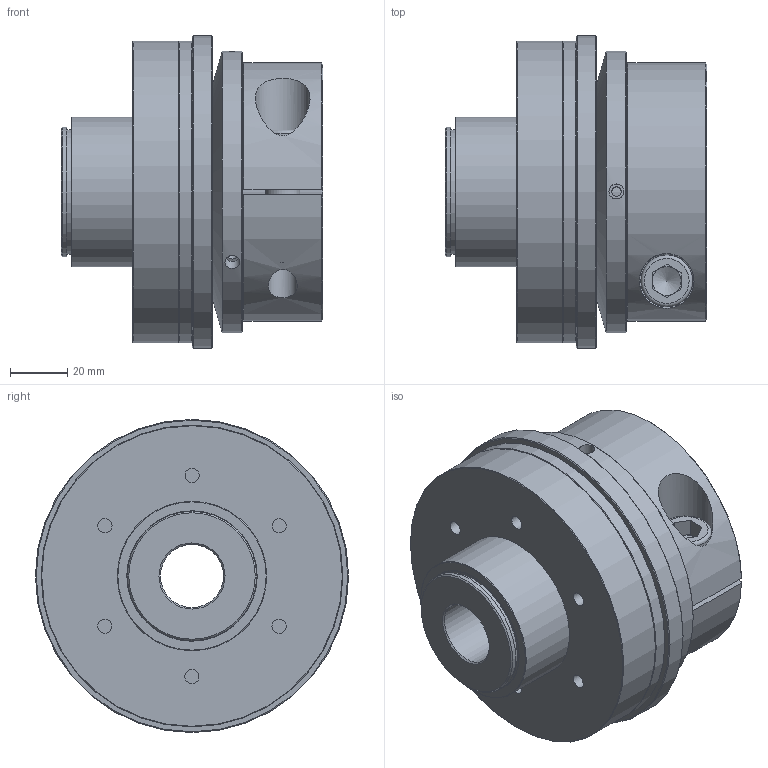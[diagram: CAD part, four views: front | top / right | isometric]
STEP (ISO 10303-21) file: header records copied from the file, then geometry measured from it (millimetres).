
FILE_DESCRIPTION( ( 'Unknown' ), '1' );
FILE_NAME( 'C:/Users/TWalzel/Documents/CAD-Daten/KBK-CK/200/KBK CK-200.stp', 'Unknown', ( 'Unknown' ), ( 'Unknown' ), 'PSStep 16.0.42', 'Unknown', ' ' );
FILE_SCHEMA( ( 'AUTOMOTIVE_DESIGN { 1 0 10303 214 1 1 1 1 }' ) );
Length unit declared in the file: millimetre
Products named in the file (10): Klemmnabe 200; Stellring 200; Druckring 200; Assem1; Flansch-Gleitlager  CK-200; Grundkörper CK-200_1; Socket Head Cap Screw_DIN_DIN 912 M12 x 35 --- 35N_2
Assembly tree (9 placements, depth 3):
  Assem1
    Flansch-Gleitlager  CK-200
    Grundkörper CK-200_1
    Socket Head Cap Screw_DIN_DIN 912 M12 x 35 --- 35N_2
    Klemmnabe 200
      Klemmnabe 200
    Stellring 200
      Stellring 200
    Druckring 200
      Druckring 200
Bounding box: 91.15 x 109 x 109 mm (x, y, z)
Volume: 490366.9 mm3; surface area: 121586.8 mm2
Topology: 6 solids, 6 shells, 131 faces, 276 edges, 177 vertices
Faces by surface type: plane 50, cylinder 46, cone 30, torus 5
Full cylindrical faces by diameter (mm): 3.242 x3, 4.917 x12, 5.2 x6, 10.106 x1, 12 x1, 12.5 x1, 18 x1, 19 x1, 22 x1, 43.5 x1, 45 x4, 52 x1, 62 x1, 66 x2, 77 x1, 90 x1, 98 x1, 105 x2, 109 x1
Entity records: 4696 total; most frequent: CARTESIAN_POINT 979, DIRECTION 576, ORIENTED_EDGE 356, AXIS2_PLACEMENT_3D 262, EDGE_LOOP 242, FACE_OUTER_BOUND 178, EDGE_CURVE 178, VERTEX_POINT 153
